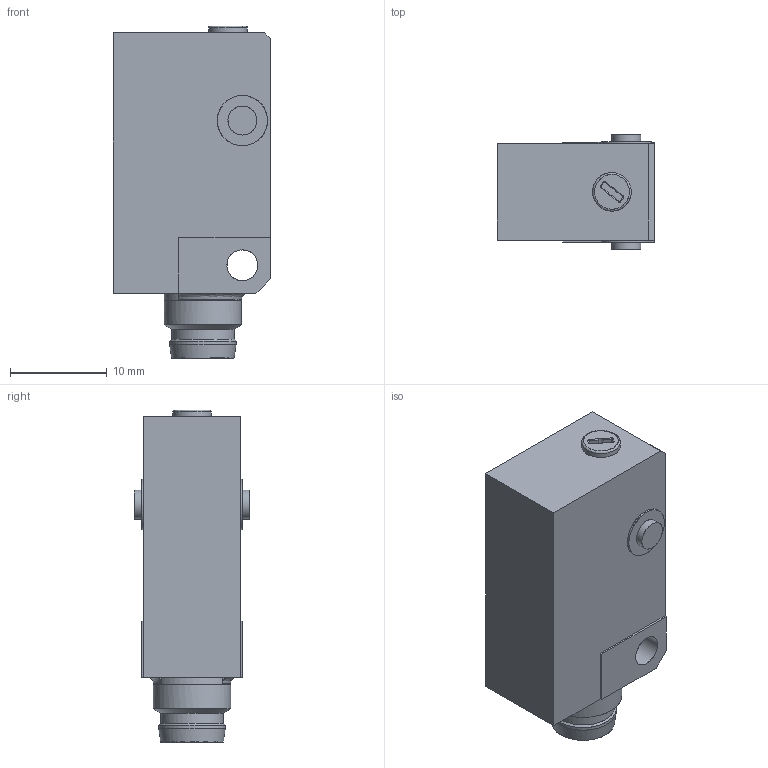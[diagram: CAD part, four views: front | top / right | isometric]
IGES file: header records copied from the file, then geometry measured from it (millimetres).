
Start section: C
Global section: file name: OHDK 10_S35A.igs; native system:  By UGS Corp.; preprocessor: XPlus GENERIC/IGES 3.0; author: Author; organization: Title; date: 20160202.102637; units: millimetre
Bounding box: 16.35 x 12 x 34.4 mm (x, y, z)
Surface area: 2164.2 mm2 (no closed solid volume)
Topology: 0 solids, 0 shells, 139 faces, 750 edges, 750 vertices
Faces by surface type: bspline 139
